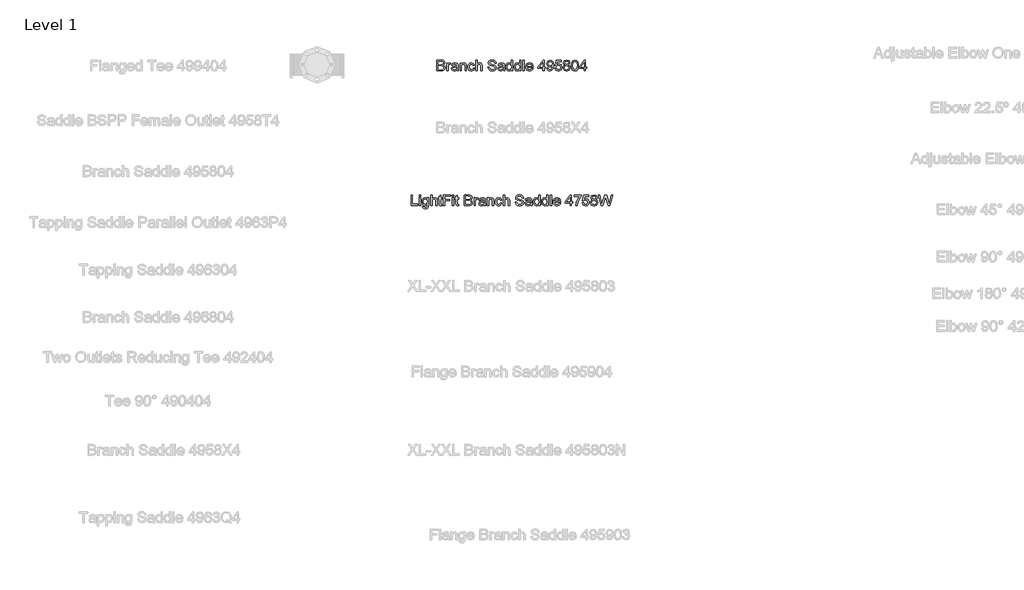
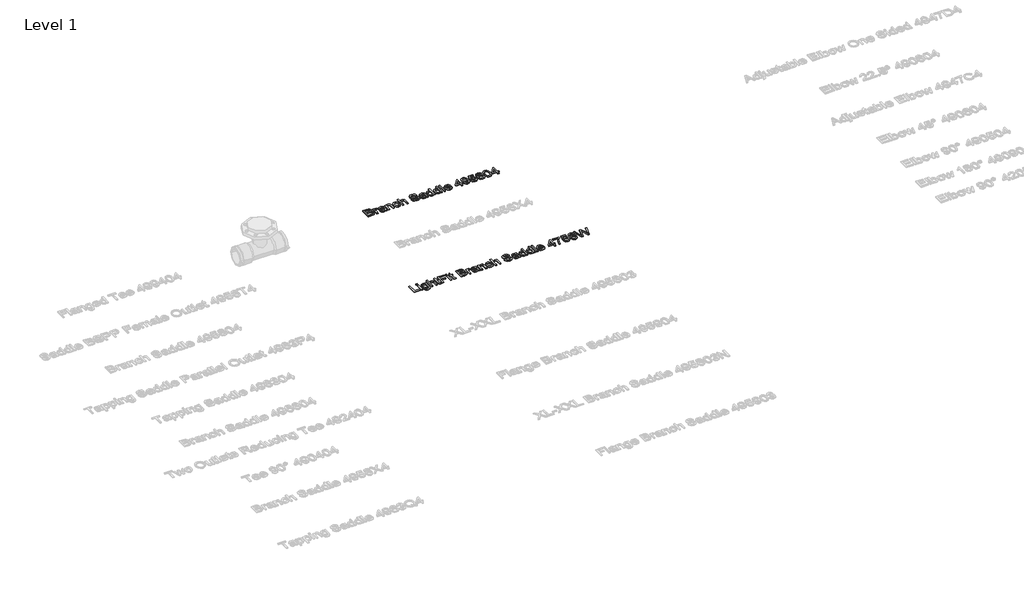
# One storey, part 16 of 41: 2 proxies.
"""IFC4 building model written with IfcOpenShell, lengths in millimetres."""

from ifc_helpers import new_model, si_unit, origin, origin_with_axes, place, context, project, spatial, polyline, outline, extrude, element, save

model = new_model("IFC4")

# Units and contexts
model_context = context("Model", 3, world=origin())
ifc_project = project(units=[si_unit("LENGTHUNIT", "METRE", prefix="MILLI")], contexts=[model_context])

# Site, building, storey
site = spatial("IfcSite", under=ifc_project)
building = spatial("IfcBuilding", under=site)
storey = spatial("IfcBuildingStorey", under=building, Name="Level 1", Elevation=0.0)

# Proxies
placement = place(None, origin())
element("IfcBuildingElementProxy", 1, Name="100 mm Arial", ObjectType="100 mm Arial", at=placement, inside=storey, context=model_context, shape_type="SweptSolid", body=[
    extrude(outline(polyline([(8447.9808456, 4197.5779735), (8447.9808456, 4256.6548966), (8455.365461, 4256.6548966), (8455.365461, 4204.9625889), (8484.9039226, 4204.9625889), (8484.9039226, 4197.5779735), (8447.9808456, 4197.5779735)])), origin_with_axes(), (0.0, 0.0, 1.0), 5.0),
    extrude(outline(polyline([(8492.288538, 4249.2702812), (8492.288538, 4256.6548966), (8499.6731533, 4256.6548966), (8499.6731533, 4249.2702812), (8492.288538, 4249.2702812)])), origin_with_axes(), (0.0, 0.0, 1.0), 5.0),
    extrude(outline(polyline([(8492.288538, 4197.5779735), (8492.288538, 4240.9625889), (8499.6731533, 4240.9625889), (8499.6731533, 4197.5779735), (8492.288538, 4197.5779735)])), origin_with_axes(), (0.0, 0.0, 1.0), 5.0),
    extrude(outline(polyline([(8508.9039226, 4193.8856658), (8516.288538, 4192.9625889), (8518.6827687, 4189.0683582), (8525.851038, 4187.4241274), (8533.4087303, 4189.2847043), (8537.0144995, 4194.5058582), (8537.5193072, 4203.1164351), (8525.9808456, 4197.5779735), (8518.3672639, 4199.1897524), (8512.6899803, 4204.0250889), (8507.9808456, 4219.4866274), (8510.0938264, 4230.9313389), (8516.209211, 4239.0298966), (8525.6202687, 4241.8856658), (8532.2080091, 4240.2702812), (8537.5193072, 4235.4241274), (8537.5193072, 4240.9625889), (8544.9039226, 4240.9625889), (8544.9039226, 4203.5058582), (8542.8846918, 4189.1621082), (8536.4880572, 4182.4914351), (8525.7068072, 4180.039512), (8513.4255572, 4183.4938389), (8508.9039226, 4193.8856658)]), holes=[polyline([(8515.365461, 4219.9914351), (8518.5169033, 4208.5611466), (8526.427961, 4204.9625889), (8534.3245956, 4208.539512), (8537.5193072, 4219.7750889), (8534.2308456, 4230.7871082), (8526.3125764, 4234.5010505), (8518.5601726, 4230.8448005), (8515.365461, 4219.9914351)])]), origin_with_axes(), (0.0, 0.0, 1.0), 5.0),
    extrude(outline(polyline([(8555.9808456, 4197.5779735), (8555.9808456, 4256.6548966), (8563.365461, 4256.6548966), (8563.365461, 4234.9337428), (8569.1238745, 4240.1476851), (8576.2164226, 4241.8856658), (8584.5096918, 4239.9890312), (8589.5433456, 4234.7462428), (8591.0577687, 4225.039512), (8591.0577687, 4197.5779735), (8583.6731533, 4197.5779735), (8583.6731533, 4224.2750889), (8581.3221918, 4232.0635505), (8574.6587303, 4234.5010505), (8568.6082495, 4232.8568197), (8564.569788, 4228.4000889), (8563.365461, 4220.6260505), (8563.365461, 4197.5779735), (8555.9808456, 4197.5779735)])), origin_with_axes(), (0.0, 0.0, 1.0), 5.0),
    extrude(outline(polyline([(8616.9039226, 4203.7366274), (8617.8269995, 4197.3616274), (8612.302961, 4196.6548966), (8606.115461, 4197.8808582), (8603.0289226, 4201.0972043), (8602.1346918, 4209.477012), (8602.1346918, 4233.5779735), (8596.5962303, 4233.5779735), (8596.5962303, 4240.9625889), (8602.1346918, 4240.9625889), (8602.1346918, 4251.5058582), (8609.5193072, 4255.8472043), (8609.5193072, 4240.9625889), (8616.9039226, 4240.9625889), (8616.9039226, 4233.5779735), (8609.5193072, 4233.5779735), (8609.5193072, 4209.6933582), (8609.9087303, 4205.8856658), (8611.1707495, 4204.5371082), (8613.6875764, 4204.039512), (8616.9039226, 4203.7366274)])), origin_with_axes(), (0.0, 0.0, 1.0), 5.0),
    extrude(outline(polyline([(8625.2116149, 4197.5779735), (8625.2116149, 4256.6548966), (8664.9039226, 4256.6548966), (8664.9039226, 4249.2702812), (8632.5962303, 4249.2702812), (8632.5962303, 4231.7318197), (8660.288538, 4231.7318197), (8660.288538, 4224.3472043), (8632.5962303, 4224.3472043), (8632.5962303, 4197.5779735), (8625.2116149, 4197.5779735)])), origin_with_axes(), (0.0, 0.0, 1.0), 5.0),
    extrude(outline(polyline([(8674.1346918, 4197.5779735), (8674.1346918, 4240.9625889), (8681.5193072, 4240.9625889), (8681.5193072, 4197.5779735), (8674.1346918, 4197.5779735)])), origin_with_axes(), (0.0, 0.0, 1.0), 5.0),
    extrude(outline(polyline([(8674.1346918, 4249.2702812), (8674.1346918, 4256.6548966), (8681.5193072, 4256.6548966), (8681.5193072, 4249.2702812), (8674.1346918, 4249.2702812)])), origin_with_axes(), (0.0, 0.0, 1.0), 5.0),
    extrude(outline(polyline([(8708.288538, 4203.7366274), (8709.2116149, 4197.3616274), (8703.6875764, 4196.6548966), (8697.5000764, 4197.8808582), (8694.413538, 4201.0972043), (8693.5193072, 4209.477012), (8693.5193072, 4233.5779735), (8687.9808456, 4233.5779735), (8687.9808456, 4240.9625889), (8693.5193072, 4240.9625889), (8693.5193072, 4251.5058582), (8700.9039226, 4255.8472043), (8700.9039226, 4240.9625889), (8708.288538, 4240.9625889), (8708.288538, 4233.5779735), (8700.9039226, 4233.5779735), (8700.9039226, 4209.6933582), (8701.2933456, 4205.8856658), (8702.5553649, 4204.5371082), (8705.0721918, 4204.039512), (8708.288538, 4203.7366274)])), origin_with_axes(), (0.0, 0.0, 1.0), 5.0),
    extrude(outline(polyline([(8739.6731533, 4197.5779735), (8739.6731533, 4256.6548966), (8762.2164226, 4256.6548966), (8773.257288, 4254.9169158), (8779.7765187, 4249.5731658), (8782.1346918, 4242.0154735), (8780.1515187, 4235.1140312), (8774.1587303, 4229.8856658), (8781.4351726, 4224.3760505), (8783.9808456, 4215.1885505), (8782.2428649, 4207.2486466), (8777.9375764, 4201.5948005), (8771.5120956, 4198.5948005), (8762.0433456, 4197.5779735), (8739.6731533, 4197.5779735)]), holes=[polyline([(8747.0577687, 4232.6548966), (8760.5433456, 4232.6548966), (8768.4183456, 4233.289512), (8773.1563264, 4236.0226851), (8774.7500764, 4240.8327812), (8773.2644995, 4245.6500889), (8769.0096918, 4248.4986466), (8759.5193072, 4249.2702812), (8747.0577687, 4249.2702812), (8747.0577687, 4232.6548966)]), polyline([(8747.0577687, 4204.9625889), (8762.2019995, 4204.9625889), (8767.6827687, 4205.2510505), (8772.319788, 4206.8592235), (8775.3919033, 4210.1404735), (8776.5962303, 4215.1164351), (8775.1827687, 4220.8568197), (8770.6034418, 4224.2823005), (8761.4808456, 4225.2702812), (8747.0577687, 4225.2702812), (8747.0577687, 4204.9625889)])]), origin_with_axes(), (0.0, 0.0, 1.0), 5.0),
    extrude(outline(polyline([(8793.2116149, 4197.5779735), (8793.2116149, 4240.9625889), (8799.6731533, 4240.9625889), (8799.6731533, 4234.5443197), (8804.2596918, 4240.4577812), (8808.8750764, 4241.8856658), (8816.288538, 4239.6068197), (8813.8221918, 4232.9866274), (8808.6298841, 4234.5010505), (8804.4544033, 4233.0443197), (8801.7933456, 4229.0058582), (8800.5962303, 4220.3808582), (8800.5962303, 4197.5779735), (8793.2116149, 4197.5779735)])), origin_with_axes(), (0.0, 0.0, 1.0), 5.0),
    extrude(outline(polyline([(8848.5962303, 4203.1164351), (8841.4351726, 4198.1116274), (8833.5241149, 4196.6548966), (8822.8005572, 4200.1597043), (8819.0577687, 4209.1164351), (8820.4712303, 4214.9577812), (8824.1851726, 4219.1981658), (8829.3558456, 4221.6212428), (8835.7452687, 4222.7318197), (8848.552961, 4225.2702812), (8848.5962303, 4226.914512), (8846.5625764, 4232.3664351), (8838.3991149, 4234.5010505), (8830.927961, 4233.0803774), (8827.365461, 4228.039512), (8819.9808456, 4228.9625889), (8823.1755572, 4236.1741274), (8829.6082495, 4240.4000889), (8839.351038, 4241.8856658), (8848.3005572, 4240.5731658), (8853.3558456, 4237.2774928), (8855.6202687, 4232.2654735), (8855.9808456, 4225.8039351), (8855.9808456, 4216.6164351), (8856.3558456, 4203.7871082), (8857.8269995, 4197.5779735), (8850.4423841, 4197.5779735), (8848.5962303, 4203.1164351)]), holes=[polyline([(8848.5962303, 4217.8856658), (8836.6827687, 4215.6212428), (8830.3294033, 4214.4241274), (8827.4519995, 4212.477012), (8826.4423841, 4209.6356658), (8828.6419033, 4205.6404735), (8835.0962303, 4204.039512), (8842.5673841, 4205.8063389), (8847.3846918, 4210.0827812), (8848.552961, 4215.7943197), (8848.5962303, 4217.8856658)])]), origin_with_axes(), (0.0, 0.0, 1.0), 5.0),
    extrude(outline(polyline([(8866.1346918, 4197.5779735), (8866.1346918, 4240.9625889), (8873.5193072, 4240.9625889), (8873.5193072, 4234.9048966), (8879.1659418, 4240.1404735), (8886.8750764, 4241.8856658), (8893.8486341, 4240.4794158), (8898.6082495, 4236.7871082), (8900.8221918, 4231.3568197), (8901.2116149, 4224.2173966), (8901.2116149, 4197.5779735), (8893.8269995, 4197.5779735), (8893.8269995, 4223.2222043), (8892.976038, 4229.7558582), (8889.9688264, 4233.2101851), (8884.8991149, 4234.5010505), (8876.8870956, 4231.602012), (8873.5193072, 4220.5972043), (8873.5193072, 4197.5779735), (8866.1346918, 4197.5779735)])), origin_with_axes(), (0.0, 0.0, 1.0), 5.0),
    extrude(outline(polyline([(8939.0577687, 4213.2702812), (8946.4423841, 4212.3472043), (8940.5144995, 4200.8159543), (8928.802961, 4196.6548966), (8920.9477928, 4198.1062187), (8914.8053649, 4202.4601851), (8910.8408216, 4209.5256899), (8909.5193072, 4219.1116274), (8911.7765187, 4231.3784543), (8918.6563264, 4239.2606658), (8928.7019995, 4241.8856658), (8939.9303649, 4238.2798966), (8945.5193072, 4228.039512), (8938.1346918, 4227.1164351), (8934.709211, 4232.6476851), (8928.7596918, 4234.5010505), (8920.1995956, 4230.852012), (8916.9039226, 4219.3135505), (8920.1274803, 4207.6669158), (8928.5577687, 4204.039512), (8935.5169033, 4206.3039351), (8939.0577687, 4213.2702812)])), origin_with_axes(), (0.0, 0.0, 1.0), 5.0),
    extrude(outline(polyline([(8952.9039226, 4197.5779735), (8952.9039226, 4256.6548966), (8960.288538, 4256.6548966), (8960.288538, 4234.9337428), (8966.0469514, 4240.1476851), (8973.1394995, 4241.8856658), (8981.4327687, 4239.9890312), (8986.4664226, 4234.7462428), (8987.9808456, 4225.039512), (8987.9808456, 4197.5779735), (8980.5962303, 4197.5779735), (8980.5962303, 4224.2750889), (8978.2452687, 4232.0635505), (8971.5818072, 4234.5010505), (8965.5313264, 4232.8568197), (8961.4928649, 4228.4000889), (8960.288538, 4220.6260505), (8960.288538, 4197.5779735), (8952.9039226, 4197.5779735)])), origin_with_axes(), (0.0, 0.0, 1.0), 5.0),
    extrude(outline(polyline([(9019.365461, 4217.8856658), (9026.7500764, 4217.8856658), (9029.1298841, 4210.4938389), (9034.9423841, 4205.820762), (9043.7981533, 4204.039512), (9051.5144995, 4205.3880697), (9056.4976726, 4209.0948005), (9058.1346918, 4214.0491274), (9056.9087303, 4218.6573005), (9051.8894995, 4222.0106658), (9041.1370956, 4224.8303774), (9029.5625764, 4228.4722043), (9023.2813264, 4233.9673966), (9021.2116149, 4241.3087428), (9023.771711, 4249.6669158), (9031.2500764, 4255.5659543), (9042.1971918, 4257.5779735), (9053.8798841, 4255.4722043), (9061.6683456, 4249.2847043), (9064.5962303, 4240.039512), (9057.2116149, 4240.039512), (9053.0289226, 4247.6260505), (9042.4856533, 4250.1933582), (9031.913538, 4247.6548966), (9028.5962303, 4241.5250889), (9030.9471918, 4236.4048966), (9043.0048841, 4232.2798966), (9056.0721918, 4228.5731658), (9063.2188264, 4222.5875889), (9065.5193072, 4214.2366274), (9062.8726726, 4205.4024928), (9055.257288, 4198.9553774), (9044.0866149, 4196.6548966), (9030.896711, 4199.1356658), (9022.552961, 4206.6068197), (9019.365461, 4217.8856658)])), origin_with_axes(), (0.0, 0.0, 1.0), 5.0),
    extrude(outline(polyline([(9103.365461, 4203.1164351), (9096.2044033, 4198.1116274), (9088.2933456, 4196.6548966), (9077.569788, 4200.1597043), (9073.8269995, 4209.1164351), (9075.240461, 4214.9577812), (9078.9544033, 4219.1981658), (9084.1250764, 4221.6212428), (9090.5144995, 4222.7318197), (9103.3221918, 4225.2702812), (9103.365461, 4226.914512), (9101.3318072, 4232.3664351), (9093.1683456, 4234.5010505), (9085.6971918, 4233.0803774), (9082.1346918, 4228.039512), (9074.7500764, 4228.9625889), (9077.944788, 4236.1741274), (9084.3774803, 4240.4000889), (9094.1202687, 4241.8856658), (9103.069788, 4240.5731658), (9108.1250764, 4237.2774928), (9110.3894995, 4232.2654735), (9110.7500764, 4225.8039351), (9110.7500764, 4216.6164351), (9111.1250764, 4203.7871082), (9112.5962303, 4197.5779735), (9105.2116149, 4197.5779735), (9103.365461, 4203.1164351)]), holes=[polyline([(9103.365461, 4217.8856658), (9091.4519995, 4215.6212428), (9085.0986341, 4214.4241274), (9082.2212303, 4212.477012), (9081.2116149, 4209.6356658), (9083.4111341, 4205.6404735), (9089.865461, 4204.039512), (9097.3366149, 4205.8063389), (9102.1539226, 4210.0827812), (9103.3221918, 4215.7943197), (9103.365461, 4217.8856658)])]), origin_with_axes(), (0.0, 0.0, 1.0), 5.0),
    extrude(outline(polyline([(9147.6731533, 4197.5779735), (9147.6731533, 4204.5443197), (9142.787336, 4198.6272524), (9136.0337303, 4196.6548966), (9126.8894995, 4199.5106658), (9120.427961, 4207.4794158), (9118.1346918, 4219.227012), (9120.2476726, 4230.9818197), (9126.5794033, 4239.0731658), (9136.0048841, 4241.8856658), (9142.8125764, 4239.8736466), (9147.6731533, 4234.6452812), (9147.6731533, 4256.6548966), (9155.0577687, 4256.6548966), (9155.0577687, 4197.5779735), (9147.6731533, 4197.5779735)]), holes=[polyline([(9125.5193072, 4219.2558582), (9128.851038, 4207.8255697), (9136.7116149, 4204.039512), (9144.4784418, 4207.6524928), (9147.6731533, 4218.6933582), (9144.4207495, 4230.6789351), (9136.4087303, 4234.5010505), (9128.6346918, 4230.8303774), (9125.5193072, 4219.2558582)])]), origin_with_axes(), (0.0, 0.0, 1.0), 5.0),
    extrude(outline(polyline([(9192.9039226, 4197.5779735), (9192.9039226, 4204.5443197), (9188.0181053, 4198.6272524), (9181.2644995, 4196.6548966), (9172.1202687, 4199.5106658), (9165.6587303, 4207.4794158), (9163.365461, 4219.227012), (9165.4784418, 4230.9818197), (9171.8101726, 4239.0731658), (9181.2356533, 4241.8856658), (9188.0433456, 4239.8736466), (9192.9039226, 4234.6452812), (9192.9039226, 4256.6548966), (9200.288538, 4256.6548966), (9200.288538, 4197.5779735), (9192.9039226, 4197.5779735)]), holes=[polyline([(9170.7500764, 4219.2558582), (9174.0818072, 4207.8255697), (9181.9423841, 4204.039512), (9189.709211, 4207.6524928), (9192.9039226, 4218.6933582), (9189.6515187, 4230.6789351), (9181.6394995, 4234.5010505), (9173.865461, 4230.8303774), (9170.7500764, 4219.2558582)])]), origin_with_axes(), (0.0, 0.0, 1.0), 5.0),
    extrude(outline(polyline([(9211.365461, 4197.5779735), (9211.365461, 4256.6548966), (9218.7500764, 4256.6548966), (9218.7500764, 4197.5779735), (9211.365461, 4197.5779735)])), origin_with_axes(), (0.0, 0.0, 1.0), 5.0),
    extrude(outline(polyline([(9260.2019995, 4210.5010505), (9267.4423841, 4209.5779735), (9260.6707495, 4200.0443197), (9248.0577687, 4196.6548966), (9239.3931053, 4198.117036), (9232.726038, 4202.5034543), (9228.474836, 4209.5292957), (9227.0577687, 4218.9097043), (9228.4892591, 4228.6056178), (9232.7837303, 4235.8568197), (9239.3606533, 4240.3784543), (9247.6394995, 4241.8856658), (9255.6605331, 4240.3820601), (9262.069788, 4235.8712428), (9266.272312, 4228.6344639), (9267.6731533, 4218.9529735), (9267.6298841, 4216.9625889), (9234.4423841, 4216.9625889), (9238.6899803, 4207.3712428), (9248.2019995, 4204.039512), (9255.4423841, 4205.5827812), (9260.2019995, 4210.5010505)]), holes=[polyline([(9234.4423841, 4224.3472043), (9260.288538, 4224.3472043), (9257.3318072, 4231.039512), (9247.6106533, 4234.5010505), (9238.5169033, 4231.7390312), (9234.4423841, 4224.3472043)])]), origin_with_axes(), (0.0, 0.0, 1.0), 5.0),
    extrude(outline(polyline([(9320.288538, 4197.5779735), (9320.288538, 4211.4241274), (9293.5193072, 4211.4241274), (9293.5193072, 4218.8087428), (9322.1346918, 4255.7318197), (9327.6731533, 4255.7318197), (9327.6731533, 4218.8087428), (9335.0577687, 4218.8087428), (9335.0577687, 4211.4241274), (9327.6731533, 4211.4241274), (9327.6731533, 4197.5779735), (9320.288538, 4197.5779735)]), holes=[polyline([(9320.288538, 4218.8087428), (9320.288538, 4241.6260505), (9302.6058456, 4218.8087428), (9320.288538, 4218.8087428)])]), origin_with_axes(), (0.0, 0.0, 1.0), 5.0),
    extrude(outline(polyline([(9341.5193072, 4248.3472043), (9341.5193072, 4255.7318197), (9380.288538, 4255.7318197), (9380.288538, 4249.7606658), (9369.2909418, 4233.8736466), (9360.8750764, 4213.6308582), (9358.1346918, 4197.5779735), (9350.7500764, 4197.5779735), (9353.6851726, 4214.2366274), (9361.740461, 4233.0659543), (9372.9039226, 4248.3472043), (9341.5193072, 4248.3472043)])), origin_with_axes(), (0.0, 0.0, 1.0), 5.0),
    extrude(outline(polyline([(9386.7500764, 4213.2702812), (9394.1346918, 4214.1933582), (9397.8558456, 4206.5851851), (9405.5721918, 4204.039512), (9414.8318072, 4207.5803774), (9418.1346918, 4216.977012), (9415.0409418, 4225.7462428), (9405.6875764, 4228.9625889), (9399.2044033, 4227.6789351), (9395.0577687, 4224.3472043), (9387.6731533, 4225.2702812), (9394.1346918, 4255.7318197), (9422.7500764, 4255.7318197), (9422.7500764, 4248.3472043), (9400.1058456, 4248.3472043), (9396.9471918, 4232.0779735), (9407.7500764, 4236.3472043), (9420.3774803, 4231.0539351), (9425.5193072, 4217.4385505), (9420.8894995, 4203.7366274), (9414.240461, 4198.4253293), (9405.5433456, 4196.6548966), (9392.5120956, 4201.2053774), (9386.7500764, 4213.2702812)])), origin_with_axes(), (0.0, 0.0, 1.0), 5.0),
    extrude(outline(polyline([(9442.740461, 4230.1164351), (9436.0120956, 4234.7029735), (9433.8269995, 4241.8423966), (9438.5866149, 4252.3856658), (9451.2644995, 4256.6548966), (9464.0577687, 4252.2847043), (9468.9039226, 4241.6404735), (9466.7476726, 4234.6813389), (9460.2068072, 4230.1164351), (9468.0601726, 4224.3255697), (9470.7500764, 4214.7702812), (9465.413538, 4201.8760505), (9451.365461, 4196.6548966), (9437.3173841, 4201.8976851), (9431.9808456, 4214.9722043), (9434.7789226, 4224.7510505), (9442.740461, 4230.1164351)]), holes=[polyline([(9441.2116149, 4241.6260505), (9443.8294033, 4235.8279735), (9451.4519995, 4233.5779735), (9458.9231533, 4235.8135505), (9461.5193072, 4241.2943197), (9458.8366149, 4246.9698005), (9451.365461, 4249.2702812), (9443.8726726, 4247.0202812), (9441.2116149, 4241.6260505)]), polyline([(9439.365461, 4215.2318197), (9440.5986341, 4209.6717235), (9444.9616149, 4205.5106658), (9451.4231533, 4204.039512), (9460.2212303, 4207.133262), (9463.365461, 4215.0010505), (9460.1202687, 4223.0202812), (9451.177961, 4226.1933582), (9442.4880572, 4223.0635505), (9439.365461, 4215.2318197)])]), origin_with_axes(), (0.0, 0.0, 1.0), 5.0),
    extrude(outline(polyline([(9490.552961, 4197.5779735), (9474.4423841, 4256.6548966), (9482.0577687, 4256.6548966), (9491.4039226, 4217.8279735), (9494.288538, 4205.8423966), (9497.3750764, 4216.4433582), (9509.0866149, 4256.6548966), (9520.0625764, 4256.6548966), (9528.5721918, 4227.5058582), (9534.9039226, 4205.8423966), (9537.7019995, 4217.4818197), (9547.1346918, 4256.6548966), (9554.7500764, 4256.6548966), (9538.6250764, 4197.5779735), (9530.7356533, 4197.5779735), (9516.5721918, 4243.1548966), (9514.5962303, 4249.5154735), (9512.3750764, 4241.8568197), (9499.4664226, 4197.5779735), (9490.552961, 4197.5779735)])), origin_with_axes(), (0.0, 0.0, 1.0), 5.0),
])
element("IfcBuildingElementProxy", 2, Name="100 mm Arial", ObjectType="100 mm Arial", at=placement, inside=storey, context=model_context, shape_type="SweptSolid", body=[
    extrude(outline(polyline([(8589.6731533, 4937.5779735), (8589.6731533, 4996.6548966), (8612.2164226, 4996.6548966), (8623.257288, 4994.9169158), (8629.7765187, 4989.5731658), (8632.1346918, 4982.0154735), (8630.1515187, 4975.1140312), (8624.1587303, 4969.8856658), (8631.4351726, 4964.3760505), (8633.9808456, 4955.1885505), (8632.2428649, 4947.2486466), (8627.9375764, 4941.5948005), (8621.5120956, 4938.5948005), (8612.0433456, 4937.5779735), (8589.6731533, 4937.5779735)]), holes=[polyline([(8597.0577687, 4944.9625889), (8612.2019995, 4944.9625889), (8617.6827687, 4945.2510505), (8622.319788, 4946.8592235), (8625.3919033, 4950.1404735), (8626.5962303, 4955.1164351), (8625.1827687, 4960.8568197), (8620.6034418, 4964.2823005), (8611.4808456, 4965.2702812), (8597.0577687, 4965.2702812), (8597.0577687, 4944.9625889)]), polyline([(8597.0577687, 4972.6548966), (8610.5433456, 4972.6548966), (8618.4183456, 4973.289512), (8623.1563264, 4976.0226851), (8624.7500764, 4980.8327812), (8623.2644995, 4985.6500889), (8619.0096918, 4988.4986466), (8609.5193072, 4989.2702812), (8597.0577687, 4989.2702812), (8597.0577687, 4972.6548966)])]), origin_with_axes(), (0.0, 0.0, 1.0), 5.0),
    extrude(outline(polyline([(8643.2116149, 4937.5779735), (8643.2116149, 4980.9625889), (8649.6731533, 4980.9625889), (8649.6731533, 4974.5443197), (8654.2596918, 4980.4577812), (8658.8750764, 4981.8856658), (8666.288538, 4979.6068197), (8663.8221918, 4972.9866274), (8658.6298841, 4974.5010505), (8654.4544033, 4973.0443197), (8651.7933456, 4969.0058582), (8650.5962303, 4960.3808582), (8650.5962303, 4937.5779735), (8643.2116149, 4937.5779735)])), origin_with_axes(), (0.0, 0.0, 1.0), 5.0),
    extrude(outline(polyline([(8698.5962303, 4943.1164351), (8691.4351726, 4938.1116274), (8683.5241149, 4936.6548966), (8672.8005572, 4940.1597043), (8669.0577687, 4949.1164351), (8670.4712303, 4954.9577812), (8674.1851726, 4959.1981658), (8679.3558456, 4961.6212428), (8685.7452687, 4962.7318197), (8698.552961, 4965.2702812), (8698.5962303, 4966.914512), (8696.5625764, 4972.3664351), (8688.3991149, 4974.5010505), (8680.927961, 4973.0803774), (8677.365461, 4968.039512), (8669.9808456, 4968.9625889), (8673.1755572, 4976.1741274), (8679.6082495, 4980.4000889), (8689.351038, 4981.8856658), (8698.3005572, 4980.5731658), (8703.3558456, 4977.2774928), (8705.6202687, 4972.2654735), (8705.9808456, 4965.8039351), (8705.9808456, 4956.6164351), (8706.3558456, 4943.7871082), (8707.8269995, 4937.5779735), (8700.4423841, 4937.5779735), (8698.5962303, 4943.1164351)]), holes=[polyline([(8698.5962303, 4957.8856658), (8686.6827687, 4955.6212428), (8680.3294033, 4954.4241274), (8677.4519995, 4952.477012), (8676.4423841, 4949.6356658), (8678.6419033, 4945.6404735), (8685.0962303, 4944.039512), (8692.5673841, 4945.8063389), (8697.3846918, 4950.0827812), (8698.552961, 4955.7943197), (8698.5962303, 4957.8856658)])]), origin_with_axes(), (0.0, 0.0, 1.0), 5.0),
    extrude(outline(polyline([(8716.1346918, 4937.5779735), (8716.1346918, 4980.9625889), (8723.5193072, 4980.9625889), (8723.5193072, 4974.9048966), (8729.1659418, 4980.1404735), (8736.8750764, 4981.8856658), (8743.8486341, 4980.4794158), (8748.6082495, 4976.7871082), (8750.8221918, 4971.3568197), (8751.2116149, 4964.2173966), (8751.2116149, 4937.5779735), (8743.8269995, 4937.5779735), (8743.8269995, 4963.2222043), (8742.976038, 4969.7558582), (8739.9688264, 4973.2101851), (8734.8991149, 4974.5010505), (8726.8870956, 4971.602012), (8723.5193072, 4960.5972043), (8723.5193072, 4937.5779735), (8716.1346918, 4937.5779735)])), origin_with_axes(), (0.0, 0.0, 1.0), 5.0),
    extrude(outline(polyline([(8789.0577687, 4953.2702812), (8796.4423841, 4952.3472043), (8790.5144995, 4940.8159543), (8778.802961, 4936.6548966), (8770.9477928, 4938.1062187), (8764.8053649, 4942.4601851), (8760.8408216, 4949.5256899), (8759.5193072, 4959.1116274), (8761.7765187, 4971.3784543), (8768.6563264, 4979.2606658), (8778.7019995, 4981.8856658), (8789.9303649, 4978.2798966), (8795.5193072, 4968.039512), (8788.1346918, 4967.1164351), (8784.709211, 4972.6476851), (8778.7596918, 4974.5010505), (8770.1995956, 4970.852012), (8766.9039226, 4959.3135505), (8770.1274803, 4947.6669158), (8778.5577687, 4944.039512), (8785.5169033, 4946.3039351), (8789.0577687, 4953.2702812)])), origin_with_axes(), (0.0, 0.0, 1.0), 5.0),
    extrude(outline(polyline([(8802.9039226, 4937.5779735), (8802.9039226, 4996.6548966), (8810.288538, 4996.6548966), (8810.288538, 4974.9337428), (8816.0469514, 4980.1476851), (8823.1394995, 4981.8856658), (8831.4327687, 4979.9890312), (8836.4664226, 4974.7462428), (8837.9808456, 4965.039512), (8837.9808456, 4937.5779735), (8830.5962303, 4937.5779735), (8830.5962303, 4964.2750889), (8828.2452687, 4972.0635505), (8821.5818072, 4974.5010505), (8815.5313264, 4972.8568197), (8811.4928649, 4968.4000889), (8810.288538, 4960.6260505), (8810.288538, 4937.5779735), (8802.9039226, 4937.5779735)])), origin_with_axes(), (0.0, 0.0, 1.0), 5.0),
    extrude(outline(polyline([(8869.365461, 4957.8856658), (8876.7500764, 4957.8856658), (8879.1298841, 4950.4938389), (8884.9423841, 4945.820762), (8893.7981533, 4944.039512), (8901.5144995, 4945.3880697), (8906.4976726, 4949.0948005), (8908.1346918, 4954.0491274), (8906.9087303, 4958.6573005), (8901.8894995, 4962.0106658), (8891.1370956, 4964.8303774), (8879.5625764, 4968.4722043), (8873.2813264, 4973.9673966), (8871.2116149, 4981.3087428), (8873.771711, 4989.6669158), (8881.2500764, 4995.5659543), (8892.1971918, 4997.5779735), (8903.8798841, 4995.4722043), (8911.6683456, 4989.2847043), (8914.5962303, 4980.039512), (8907.2116149, 4980.039512), (8903.0289226, 4987.6260505), (8892.4856533, 4990.1933582), (8881.913538, 4987.6548966), (8878.5962303, 4981.5250889), (8880.9471918, 4976.4048966), (8893.0048841, 4972.2798966), (8906.0721918, 4968.5731658), (8913.2188264, 4962.5875889), (8915.5193072, 4954.2366274), (8912.8726726, 4945.4024928), (8905.257288, 4938.9553774), (8894.0866149, 4936.6548966), (8880.896711, 4939.1356658), (8872.552961, 4946.6068197), (8869.365461, 4957.8856658)])), origin_with_axes(), (0.0, 0.0, 1.0), 5.0),
    extrude(outline(polyline([(8953.365461, 4943.1164351), (8946.2044033, 4938.1116274), (8938.2933456, 4936.6548966), (8927.569788, 4940.1597043), (8923.8269995, 4949.1164351), (8925.240461, 4954.9577812), (8928.9544033, 4959.1981658), (8934.1250764, 4961.6212428), (8940.5144995, 4962.7318197), (8953.3221918, 4965.2702812), (8953.365461, 4966.914512), (8951.3318072, 4972.3664351), (8943.1683456, 4974.5010505), (8935.6971918, 4973.0803774), (8932.1346918, 4968.039512), (8924.7500764, 4968.9625889), (8927.944788, 4976.1741274), (8934.3774803, 4980.4000889), (8944.1202687, 4981.8856658), (8953.069788, 4980.5731658), (8958.1250764, 4977.2774928), (8960.3894995, 4972.2654735), (8960.7500764, 4965.8039351), (8960.7500764, 4956.6164351), (8961.1250764, 4943.7871082), (8962.5962303, 4937.5779735), (8955.2116149, 4937.5779735), (8953.365461, 4943.1164351)]), holes=[polyline([(8953.365461, 4957.8856658), (8941.4519995, 4955.6212428), (8935.0986341, 4954.4241274), (8932.2212303, 4952.477012), (8931.2116149, 4949.6356658), (8933.4111341, 4945.6404735), (8939.865461, 4944.039512), (8947.3366149, 4945.8063389), (8952.1539226, 4950.0827812), (8953.3221918, 4955.7943197), (8953.365461, 4957.8856658)])]), origin_with_axes(), (0.0, 0.0, 1.0), 5.0),
    extrude(outline(polyline([(8997.6731533, 4937.5779735), (8997.6731533, 4944.5443197), (8992.787336, 4938.6272524), (8986.0337303, 4936.6548966), (8976.8894995, 4939.5106658), (8970.427961, 4947.4794158), (8968.1346918, 4959.227012), (8970.2476726, 4970.9818197), (8976.5794033, 4979.0731658), (8986.0048841, 4981.8856658), (8992.8125764, 4979.8736466), (8997.6731533, 4974.6452812), (8997.6731533, 4996.6548966), (9005.0577687, 4996.6548966), (9005.0577687, 4937.5779735), (8997.6731533, 4937.5779735)]), holes=[polyline([(8975.5193072, 4959.2558582), (8978.851038, 4947.8255697), (8986.7116149, 4944.039512), (8994.4784418, 4947.6524928), (8997.6731533, 4958.6933582), (8994.4207495, 4970.6789351), (8986.4087303, 4974.5010505), (8978.6346918, 4970.8303774), (8975.5193072, 4959.2558582)])]), origin_with_axes(), (0.0, 0.0, 1.0), 5.0),
    extrude(outline(polyline([(9042.9039226, 4937.5779735), (9042.9039226, 4944.5443197), (9038.0181053, 4938.6272524), (9031.2644995, 4936.6548966), (9022.1202687, 4939.5106658), (9015.6587303, 4947.4794158), (9013.365461, 4959.227012), (9015.4784418, 4970.9818197), (9021.8101726, 4979.0731658), (9031.2356533, 4981.8856658), (9038.0433456, 4979.8736466), (9042.9039226, 4974.6452812), (9042.9039226, 4996.6548966), (9050.288538, 4996.6548966), (9050.288538, 4937.5779735), (9042.9039226, 4937.5779735)]), holes=[polyline([(9020.7500764, 4959.2558582), (9024.0818072, 4947.8255697), (9031.9423841, 4944.039512), (9039.709211, 4947.6524928), (9042.9039226, 4958.6933582), (9039.6515187, 4970.6789351), (9031.6394995, 4974.5010505), (9023.865461, 4970.8303774), (9020.7500764, 4959.2558582)])]), origin_with_axes(), (0.0, 0.0, 1.0), 5.0),
    extrude(outline(polyline([(9061.365461, 4937.5779735), (9061.365461, 4996.6548966), (9068.7500764, 4996.6548966), (9068.7500764, 4937.5779735), (9061.365461, 4937.5779735)])), origin_with_axes(), (0.0, 0.0, 1.0), 5.0),
    extrude(outline(polyline([(9110.2019995, 4950.5010505), (9117.4423841, 4949.5779735), (9110.6707495, 4940.0443197), (9098.0577687, 4936.6548966), (9089.3931053, 4938.117036), (9082.726038, 4942.5034543), (9078.474836, 4949.5292957), (9077.0577687, 4958.9097043), (9078.4892591, 4968.6056178), (9082.7837303, 4975.8568197), (9089.3606533, 4980.3784543), (9097.6394995, 4981.8856658), (9105.6605331, 4980.3820601), (9112.069788, 4975.8712428), (9116.272312, 4968.6344639), (9117.6731533, 4958.9529735), (9117.6298841, 4956.9625889), (9084.4423841, 4956.9625889), (9088.6899803, 4947.3712428), (9098.2019995, 4944.039512), (9105.4423841, 4945.5827812), (9110.2019995, 4950.5010505)]), holes=[polyline([(9084.4423841, 4964.3472043), (9110.288538, 4964.3472043), (9107.3318072, 4971.039512), (9097.6106533, 4974.5010505), (9088.5169033, 4971.7390312), (9084.4423841, 4964.3472043)])]), origin_with_axes(), (0.0, 0.0, 1.0), 5.0),
    extrude(outline(polyline([(9170.288538, 4937.5779735), (9170.288538, 4951.4241274), (9143.5193072, 4951.4241274), (9143.5193072, 4958.8087428), (9172.1346918, 4995.7318197), (9177.6731533, 4995.7318197), (9177.6731533, 4958.8087428), (9185.0577687, 4958.8087428), (9185.0577687, 4951.4241274), (9177.6731533, 4951.4241274), (9177.6731533, 4937.5779735), (9170.288538, 4937.5779735)]), holes=[polyline([(9170.288538, 4958.8087428), (9170.288538, 4981.6260505), (9152.6058456, 4958.8087428), (9170.288538, 4958.8087428)])]), origin_with_axes(), (0.0, 0.0, 1.0), 5.0),
    extrude(outline(polyline([(9192.4423841, 4952.3472043), (9199.8269995, 4953.2702812), (9203.1443072, 4946.2246082), (9209.4327687, 4944.039512), (9215.4111341, 4945.445762), (9219.4640187, 4949.2029735), (9221.8798841, 4955.6212428), (9222.9471918, 4964.1885505), (9216.9976726, 4960.0347043), (9208.8991149, 4957.8856658), (9196.5601726, 4963.1356658), (9191.5193072, 4976.9673966), (9196.8053649, 4991.2462428), (9210.052961, 4996.6548966), (9220.5745956, 4993.5683582), (9227.8149803, 4984.7702812), (9230.288538, 4968.2414351), (9227.8221918, 4950.3063389), (9220.4880572, 4940.1452812), (9209.0866149, 4936.6548966), (9197.7356533, 4940.7726851), (9192.4423841, 4952.3472043)]), holes=[polyline([(9222.9039226, 4977.1404735), (9219.7164226, 4985.9962428), (9211.2500764, 4989.2702812), (9202.365461, 4985.7438389), (9198.9039226, 4976.6068197), (9202.177961, 4968.4217235), (9211.0481533, 4965.2702812), (9219.5649803, 4968.4217235), (9222.9039226, 4977.1404735)])]), origin_with_axes(), (0.0, 0.0, 1.0), 5.0),
    extrude(outline(polyline([(9236.7500764, 4953.2702812), (9244.1346918, 4954.1933582), (9247.8558456, 4946.5851851), (9255.5721918, 4944.039512), (9264.8318072, 4947.5803774), (9268.1346918, 4956.977012), (9265.0409418, 4965.7462428), (9255.6875764, 4968.9625889), (9249.2044033, 4967.6789351), (9245.0577687, 4964.3472043), (9237.6731533, 4965.2702812), (9244.1346918, 4995.7318197), (9272.7500764, 4995.7318197), (9272.7500764, 4988.3472043), (9250.1058456, 4988.3472043), (9246.9471918, 4972.0779735), (9257.7500764, 4976.3472043), (9270.3774803, 4971.0539351), (9275.5193072, 4957.4385505), (9270.8894995, 4943.7366274), (9264.240461, 4938.4253293), (9255.5433456, 4936.6548966), (9242.5120956, 4941.2053774), (9236.7500764, 4953.2702812)])), origin_with_axes(), (0.0, 0.0, 1.0), 5.0),
    extrude(outline(polyline([(9292.740461, 4970.1164351), (9286.0120956, 4974.7029735), (9283.8269995, 4981.8423966), (9288.5866149, 4992.3856658), (9301.2644995, 4996.6548966), (9314.0577687, 4992.2847043), (9318.9039226, 4981.6404735), (9316.7476726, 4974.6813389), (9310.2068072, 4970.1164351), (9318.0601726, 4964.3255697), (9320.7500764, 4954.7702812), (9315.413538, 4941.8760505), (9301.365461, 4936.6548966), (9287.3173841, 4941.8976851), (9281.9808456, 4954.9722043), (9284.7789226, 4964.7510505), (9292.740461, 4970.1164351)]), holes=[polyline([(9291.2116149, 4981.6260505), (9293.8294033, 4975.8279735), (9301.4519995, 4973.5779735), (9308.9231533, 4975.8135505), (9311.5193072, 4981.2943197), (9308.8366149, 4986.9698005), (9301.365461, 4989.2702812), (9293.8726726, 4987.0202812), (9291.2116149, 4981.6260505)]), polyline([(9289.365461, 4955.2318197), (9290.5986341, 4949.6717235), (9294.9616149, 4945.5106658), (9301.4231533, 4944.039512), (9310.2212303, 4947.133262), (9313.365461, 4955.0010505), (9310.1202687, 4963.0202812), (9301.177961, 4966.1933582), (9292.4880572, 4963.0635505), (9289.365461, 4955.2318197)])]), origin_with_axes(), (0.0, 0.0, 1.0), 5.0),
    extrude(outline(polyline([(9327.2116149, 4966.6404735), (9329.382288, 4983.6380697), (9335.8294033, 4993.4385505), (9346.5962303, 4996.6548966), (9355.2212303, 4994.7510505), (9361.177961, 4989.2630697), (9364.6394995, 4980.5226851), (9365.9808456, 4966.6404735), (9363.8318072, 4949.7149928), (9357.4063264, 4939.8928774), (9346.5962303, 4936.6548966), (9338.9231533, 4938.0611466), (9333.0962303, 4942.2798966), (9328.6827687, 4952.2714832), (9327.2116149, 4966.6404735)]), holes=[polyline([(9334.5962303, 4966.6548966), (9338.0577687, 4948.3159543), (9346.5962303, 4944.039512), (9355.1346918, 4948.3303774), (9358.5962303, 4966.6548966), (9355.2500764, 4984.7847043), (9346.5096918, 4989.2702812), (9338.1731533, 4985.3183582), (9334.5962303, 4966.6548966)])]), origin_with_axes(), (0.0, 0.0, 1.0), 5.0),
    extrude(outline(polyline([(9396.4423841, 4937.5779735), (9396.4423841, 4951.4241274), (9369.6731533, 4951.4241274), (9369.6731533, 4958.8087428), (9398.288538, 4995.7318197), (9403.8269995, 4995.7318197), (9403.8269995, 4958.8087428), (9411.2116149, 4958.8087428), (9411.2116149, 4951.4241274), (9403.8269995, 4951.4241274), (9403.8269995, 4937.5779735), (9396.4423841, 4937.5779735)]), holes=[polyline([(9396.4423841, 4958.8087428), (9396.4423841, 4981.6260505), (9378.7596918, 4958.8087428), (9396.4423841, 4958.8087428)])]), origin_with_axes(), (0.0, 0.0, 1.0), 5.0),
])

save(model, "model.ifc")
